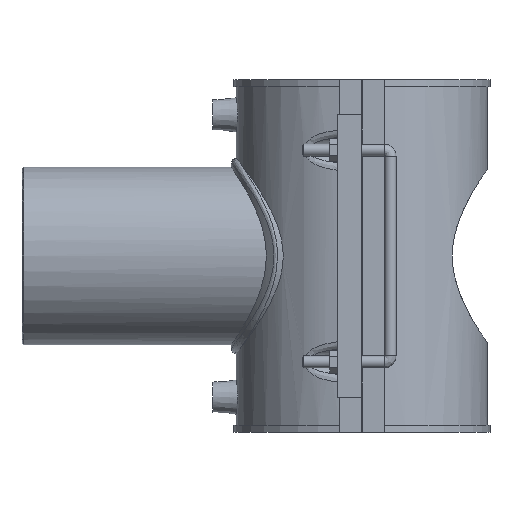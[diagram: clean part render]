
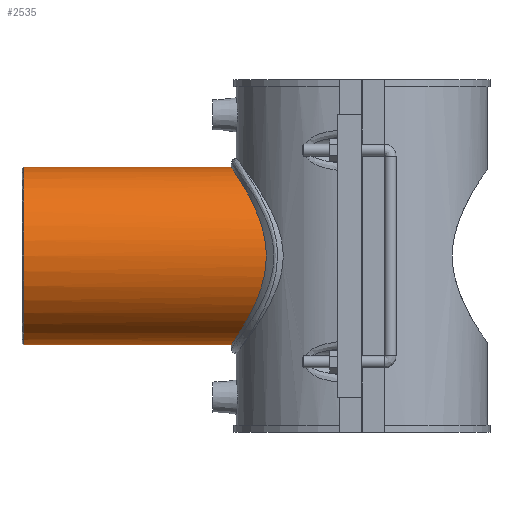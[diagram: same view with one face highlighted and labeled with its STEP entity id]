
A CAD part, left-side view. The second image highlights one B-rep face of the part: STEP entity #2535.
In plain terms, the highlighted cylindrical face has radius 44.35 mm (diameter 88.7 mm), a full revolution.
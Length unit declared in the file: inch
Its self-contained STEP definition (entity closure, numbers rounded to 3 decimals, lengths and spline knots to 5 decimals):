
#141=CIRCLE('',#2705,1.74606);
#243=FACE_OUTER_BOUND('',#393,.T.);
#393=EDGE_LOOP('',(#1736,#1737,#1738,#1739));
#567=LINE('',#3875,#806);
#806=VECTOR('',#2947,1.74606);
#1047=B_SPLINE_CURVE_WITH_KNOTS('',3,(#3809,#3810,#3811,#3812,#3813,#3814,
#3815,#3816,#3817,#3818,#3819,#3820,#3821,#3822,#3823,#3824,#3825,#3826,
#3827,#3828,#3829,#3830,#3831,#3832,#3833,#3834,#3835,#3836,#3837,#3838,
#3839,#3840,#3841,#3842,#3843,#3844,#3845,#3846,#3847,#3848,#3849,#3850,
#3851,#3852,#3853,#3854,#3855,#3856,#3857,#3858,#3859,#3860,#3861,#3862,
#3863,#3864,#3865,#3866,#3867,#3868,#3869,#3870,#3871,#3872,#3873,#3874),
 .UNSPECIFIED.,.T.,.F.,(4,2,2,2,2,2,2,2,2,2,2,2,2,2,2,2,2,2,2,2,2,2,2,2,
2,2,2,2,2,2,2,2,4),(0.,0.87749,1.75498,2.63247,
3.50996,4.37666,5.24337,6.11007,6.97678,
7.84348,8.71019,9.57689,10.4436,11.32109,
12.19858,13.07607,13.95356,14.83105,15.70854,
16.58603,17.46352,18.33022,19.19693,20.06363,
20.93034,21.79704,22.66375,23.53045,24.39716,
25.27465,26.15214,27.02963,27.90712),
 .UNSPECIFIED.);
#1098=VERTEX_POINT('',#3802);
#1100=VERTEX_POINT('',#3808);
#1348=EDGE_CURVE('',#1098,#1098,#141,.T.);
#1351=EDGE_CURVE('',#1100,#1100,#1047,.T.);
#1352=EDGE_CURVE('',#1100,#1098,#567,.T.);
#1736=ORIENTED_EDGE('',*,*,#1351,.F.);
#1737=ORIENTED_EDGE('',*,*,#1352,.T.);
#1738=ORIENTED_EDGE('',*,*,#1348,.F.);
#1739=ORIENTED_EDGE('',*,*,#1352,.F.);
#2493=CYLINDRICAL_SURFACE('',#2707,1.74606);
#2535=ADVANCED_FACE('',(#243),#2493,.T.);
#2705=AXIS2_PLACEMENT_3D('',#3803,#2940,#2941);
#2707=AXIS2_PLACEMENT_3D('',#3807,#2945,#2946);
#2940=DIRECTION('center_axis',(0.,1.,0.));
#2941=DIRECTION('ref_axis',(1.,0.,0.));
#2945=DIRECTION('center_axis',(0.,-1.,0.));
#2946=DIRECTION('ref_axis',(1.,0.,0.));
#2947=DIRECTION('',(0.,1.,0.));
#3802=CARTESIAN_POINT('',(-1.74606,6.64114,0.));
#3803=CARTESIAN_POINT('Origin',(0.,6.64114,0.));
#3807=CARTESIAN_POINT('Origin',(0.,6.67606,0.));
#3808=CARTESIAN_POINT('',(-1.74606,1.87856,0.));
#3809=CARTESIAN_POINT('Ctrl Pts',(-1.74606,1.87856,0.));
#3810=CARTESIAN_POINT('Ctrl Pts',(-1.74606,1.87856,-0.11516));
#3811=CARTESIAN_POINT('Ctrl Pts',(-1.73452,1.88948,-0.23193));
#3812=CARTESIAN_POINT('Ctrl Pts',(-1.68823,1.93095,-0.46068));
#3813=CARTESIAN_POINT('Ctrl Pts',(-1.65351,1.96136,-0.57269));
#3814=CARTESIAN_POINT('Ctrl Pts',(-1.56365,2.03373,-0.78555));
#3815=CARTESIAN_POINT('Ctrl Pts',(-1.50842,2.07563,-0.88662));
#3816=CARTESIAN_POINT('Ctrl Pts',(-1.3819,2.16193,-1.07322));
#3817=CARTESIAN_POINT('Ctrl Pts',(-1.31056,2.20628,-1.15875));
#3818=CARTESIAN_POINT('Ctrl Pts',(-1.15968,2.28914,-1.30962));
#3819=CARTESIAN_POINT('Ctrl Pts',(-1.07466,2.33088,-1.38079));
#3820=CARTESIAN_POINT('Ctrl Pts',(-0.88801,2.40819,-1.50762));
#3821=CARTESIAN_POINT('Ctrl Pts',(-0.78636,2.4437,-1.56329));
#3822=CARTESIAN_POINT('Ctrl Pts',(-0.57216,2.50254,-1.65375));
#3823=CARTESIAN_POINT('Ctrl Pts',(-0.45937,2.52588,-1.6886));
#3824=CARTESIAN_POINT('Ctrl Pts',(-0.23016,2.55697,-1.73477));
#3825=CARTESIAN_POINT('Ctrl Pts',(-0.11374,2.56471,-1.74606));
#3826=CARTESIAN_POINT('Ctrl Pts',(0.11374,2.56471,-1.74606));
#3827=CARTESIAN_POINT('Ctrl Pts',(0.23016,2.55697,-1.73477));
#3828=CARTESIAN_POINT('Ctrl Pts',(0.45937,2.52588,-1.6886));
#3829=CARTESIAN_POINT('Ctrl Pts',(0.57216,2.50254,-1.65375));
#3830=CARTESIAN_POINT('Ctrl Pts',(0.78636,2.4437,-1.56329));
#3831=CARTESIAN_POINT('Ctrl Pts',(0.88801,2.40819,-1.50762));
#3832=CARTESIAN_POINT('Ctrl Pts',(1.07466,2.33088,-1.38079));
#3833=CARTESIAN_POINT('Ctrl Pts',(1.15968,2.28914,-1.30962));
#3834=CARTESIAN_POINT('Ctrl Pts',(1.31056,2.20628,-1.15875));
#3835=CARTESIAN_POINT('Ctrl Pts',(1.3819,2.16193,-1.07322));
#3836=CARTESIAN_POINT('Ctrl Pts',(1.50842,2.07563,-0.88662));
#3837=CARTESIAN_POINT('Ctrl Pts',(1.56365,2.03373,-0.78555));
#3838=CARTESIAN_POINT('Ctrl Pts',(1.65351,1.96136,-0.57269));
#3839=CARTESIAN_POINT('Ctrl Pts',(1.68823,1.93095,-0.46068));
#3840=CARTESIAN_POINT('Ctrl Pts',(1.73452,1.88948,-0.23193));
#3841=CARTESIAN_POINT('Ctrl Pts',(1.74606,1.87856,-0.11516));
#3842=CARTESIAN_POINT('Ctrl Pts',(1.74606,1.87856,0.11516));
#3843=CARTESIAN_POINT('Ctrl Pts',(1.73452,1.88948,0.23193));
#3844=CARTESIAN_POINT('Ctrl Pts',(1.68823,1.93095,0.46068));
#3845=CARTESIAN_POINT('Ctrl Pts',(1.65351,1.96136,0.57269));
#3846=CARTESIAN_POINT('Ctrl Pts',(1.56365,2.03373,0.78555));
#3847=CARTESIAN_POINT('Ctrl Pts',(1.50842,2.07563,0.88662));
#3848=CARTESIAN_POINT('Ctrl Pts',(1.3819,2.16193,1.07322));
#3849=CARTESIAN_POINT('Ctrl Pts',(1.31056,2.20628,1.15875));
#3850=CARTESIAN_POINT('Ctrl Pts',(1.15968,2.28914,1.30962));
#3851=CARTESIAN_POINT('Ctrl Pts',(1.07466,2.33088,1.38079));
#3852=CARTESIAN_POINT('Ctrl Pts',(0.88801,2.40819,1.50762));
#3853=CARTESIAN_POINT('Ctrl Pts',(0.78636,2.4437,1.56329));
#3854=CARTESIAN_POINT('Ctrl Pts',(0.57216,2.50254,1.65375));
#3855=CARTESIAN_POINT('Ctrl Pts',(0.45937,2.52588,1.6886));
#3856=CARTESIAN_POINT('Ctrl Pts',(0.23016,2.55697,1.73477));
#3857=CARTESIAN_POINT('Ctrl Pts',(0.11374,2.56471,1.74606));
#3858=CARTESIAN_POINT('Ctrl Pts',(-0.11374,2.56471,1.74606));
#3859=CARTESIAN_POINT('Ctrl Pts',(-0.23016,2.55697,1.73477));
#3860=CARTESIAN_POINT('Ctrl Pts',(-0.45937,2.52588,1.6886));
#3861=CARTESIAN_POINT('Ctrl Pts',(-0.57216,2.50254,1.65375));
#3862=CARTESIAN_POINT('Ctrl Pts',(-0.78636,2.4437,1.56329));
#3863=CARTESIAN_POINT('Ctrl Pts',(-0.88801,2.40819,1.50762));
#3864=CARTESIAN_POINT('Ctrl Pts',(-1.07466,2.33088,1.38079));
#3865=CARTESIAN_POINT('Ctrl Pts',(-1.15968,2.28914,1.30962));
#3866=CARTESIAN_POINT('Ctrl Pts',(-1.31056,2.20628,1.15875));
#3867=CARTESIAN_POINT('Ctrl Pts',(-1.3819,2.16193,1.07322));
#3868=CARTESIAN_POINT('Ctrl Pts',(-1.50842,2.07563,0.88662));
#3869=CARTESIAN_POINT('Ctrl Pts',(-1.56365,2.03373,0.78555));
#3870=CARTESIAN_POINT('Ctrl Pts',(-1.65351,1.96136,0.57269));
#3871=CARTESIAN_POINT('Ctrl Pts',(-1.68823,1.93095,0.46068));
#3872=CARTESIAN_POINT('Ctrl Pts',(-1.73452,1.88948,0.23193));
#3873=CARTESIAN_POINT('Ctrl Pts',(-1.74606,1.87856,0.11516));
#3874=CARTESIAN_POINT('Ctrl Pts',(-1.74606,1.87856,0.));
#3875=CARTESIAN_POINT('',(-1.74606,6.67606,0.));
